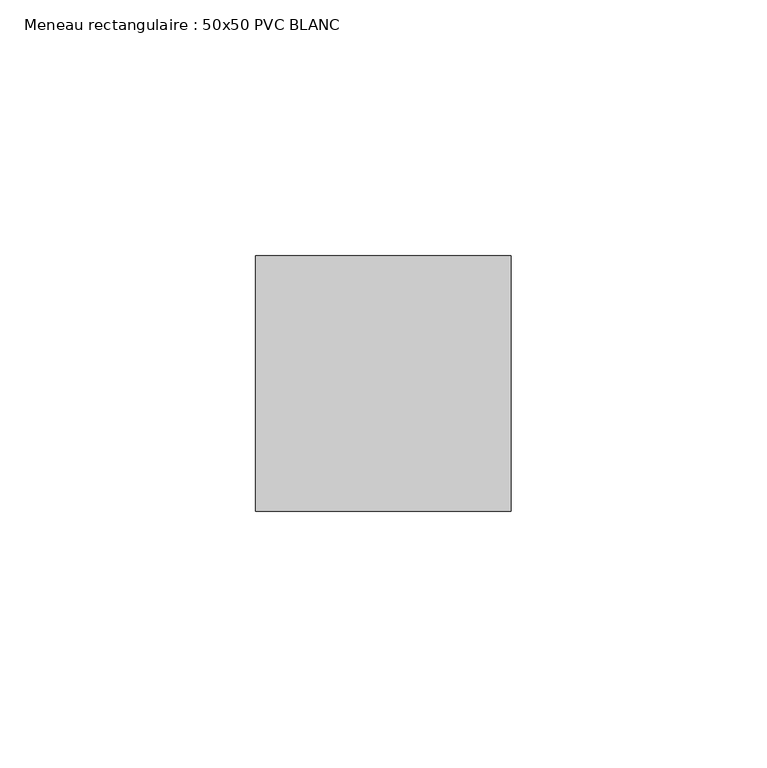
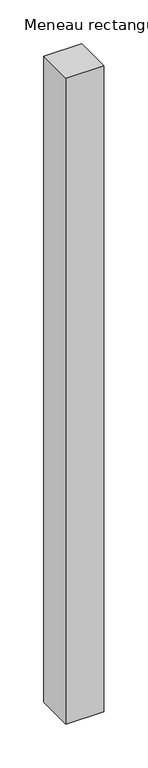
"""IFC4 building model written with IfcOpenShell, lengths in millimetres: member geometry, Meneau rectangulaire : 50x50 PVC BLANC."""

from ifc_helpers import new_model, si_unit, frame, origin, place, context, project, spatial, polyline, outline, extrude, source, transform, mapped, element, save


def meneau_rectangulaire_50x50_pvc_blanc_c895a4e5(model_context):
    return source(origin(), model_context, "Body", "SweptSolid", [
        extrude(outline(polyline([(0.0, 0.0), (0.0, -50.0), (-50.0, -50.0), (-50.0, 0.0), (0.0, 0.0)])), frame((0.0, 0.0, -899.0098072), z_axis=(0.0, 0.0, 1.0), x_axis=(1.0, 0.0, 0.0)), (0.0, 0.0, 1.0), 899.0098072),
    ])


if __name__ == "__main__":
    model = new_model("IFC4")
    model_context = context("Model", 3, world=origin())
    ifc_project = project(units=[si_unit("LENGTHUNIT", "METRE", prefix="MILLI")], contexts=[model_context])
    site = spatial("IfcSite", under=ifc_project)
    building = spatial("IfcBuilding", under=site)
    placement = place(None, origin())
    meneau_rectangulaire_50x50_pvc_blanc_shape = meneau_rectangulaire_50x50_pvc_blanc_c895a4e5(model_context)
    element("IfcMember", 1, ObjectType="Meneau rectangulaire : 50x50 PVC BLANC", at=placement, inside=building, context=model_context, shape_type="MappedRepresentation", body=[
        mapped(meneau_rectangulaire_50x50_pvc_blanc_shape, transform((0.0, 0.0, 0.0), x_axis=(1.0, 0.0, 0.0), y_axis=(0.0, 1.0, 0.0), z_axis=(0.0, 0.0, 1.0))),
    ])
    save(model, "model.ifc")
